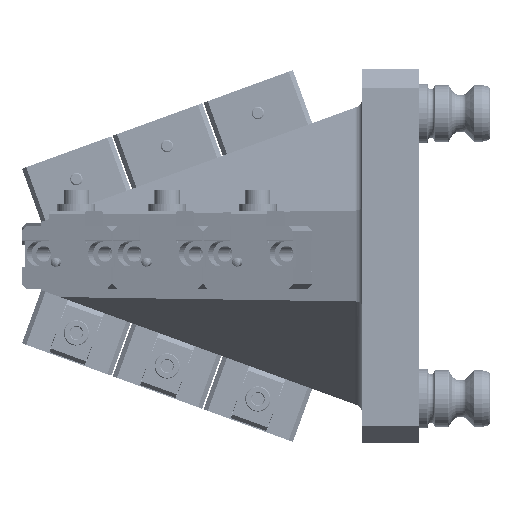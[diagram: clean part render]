
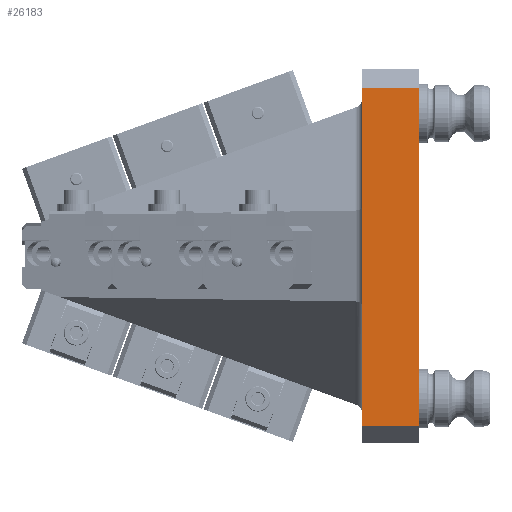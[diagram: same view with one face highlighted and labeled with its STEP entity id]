
A CAD part, left-side view. The second image highlights one B-rep face of the part: STEP entity #26183.
In plain terms, the highlighted planar face has unit normal (-1, 0, 0).
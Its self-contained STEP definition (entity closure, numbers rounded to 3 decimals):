
#317 = DIRECTION ( 'NONE',  ( 0., 0., 1. ) ) ;
#559 = VERTEX_POINT ( 'NONE', #12073 ) ;
#1183 = PLANE ( 'NONE',  #1555 ) ;
#1555 = AXIS2_PLACEMENT_3D ( 'NONE', #23831, #10973, #33613 ) ;
#5651 = CARTESIAN_POINT ( 'NONE',  ( -62.865, 127., -57.147 ) ) ;
#10755 = VERTEX_POINT ( 'NONE', #13161 ) ;
#10936 = VECTOR ( 'NONE', #35075, 1000. ) ;
#10973 = DIRECTION ( 'NONE',  ( -1., 0., 0. ) ) ;
#11067 = ORIENTED_EDGE ( 'NONE', *, *, #38720, .T. ) ;
#12073 = CARTESIAN_POINT ( 'NONE',  ( -62.865, 19.05, -57.147 ) ) ;
#12493 = LINE ( 'NONE', #34519, #26658 ) ;
#13161 = CARTESIAN_POINT ( 'NONE',  ( -62.865, 19.05, 56.515 ) ) ;
#13863 = LINE ( 'NONE', #29326, #29050 ) ;
#14307 = CARTESIAN_POINT ( 'NONE',  ( -62.865, 0., -57.147 ) ) ;
#16411 = ORIENTED_EDGE ( 'NONE', *, *, #29249, .T. ) ;
#17458 = LINE ( 'NONE', #36019, #33671 ) ;
#17684 = FACE_OUTER_BOUND ( 'NONE', #28696, .T. ) ;
#18521 = LINE ( 'NONE', #5651, #10936 ) ;
#23432 = CARTESIAN_POINT ( 'NONE',  ( -62.865, 0., 56.515 ) ) ;
#23831 = CARTESIAN_POINT ( 'NONE',  ( -62.865, 127., 62.865 ) ) ;
#26183 = ADVANCED_FACE ( 'NONE', ( #17684 ), #1183, .T. ) ;
#26658 = VECTOR ( 'NONE', #28160, 1000. ) ;
#26810 = VERTEX_POINT ( 'NONE', #14307 ) ;
#27738 = ORIENTED_EDGE ( 'NONE', *, *, #29865, .F. ) ;
#28160 = DIRECTION ( 'NONE',  ( 0., 0., -1. ) ) ;
#28696 = EDGE_LOOP ( 'NONE', ( #33105, #16411, #27738, #11067 ) ) ;
#29050 = VECTOR ( 'NONE', #317, 1000. ) ;
#29249 = EDGE_CURVE ( 'NONE', #34243, #10755, #17458, .T. ) ;
#29326 = CARTESIAN_POINT ( 'NONE',  ( -62.865, 19.05, 0. ) ) ;
#29865 = EDGE_CURVE ( 'NONE', #559, #10755, #13863, .T. ) ;
#33105 = ORIENTED_EDGE ( 'NONE', *, *, #33232, .F. ) ;
#33232 = EDGE_CURVE ( 'NONE', #34243, #26810, #12493, .T. ) ;
#33613 = DIRECTION ( 'NONE',  ( 0., 0., 1. ) ) ;
#33671 = VECTOR ( 'NONE', #39274, 1000. ) ;
#34243 = VERTEX_POINT ( 'NONE', #23432 ) ;
#34519 = CARTESIAN_POINT ( 'NONE',  ( -62.865, 0., 62.865 ) ) ;
#35075 = DIRECTION ( 'NONE',  ( 0., -1., 0. ) ) ;
#36019 = CARTESIAN_POINT ( 'NONE',  ( -62.865, 127., 56.515 ) ) ;
#38720 = EDGE_CURVE ( 'NONE', #559, #26810, #18521, .T. ) ;
#39274 = DIRECTION ( 'NONE',  ( 0., 1., 0. ) ) ;
